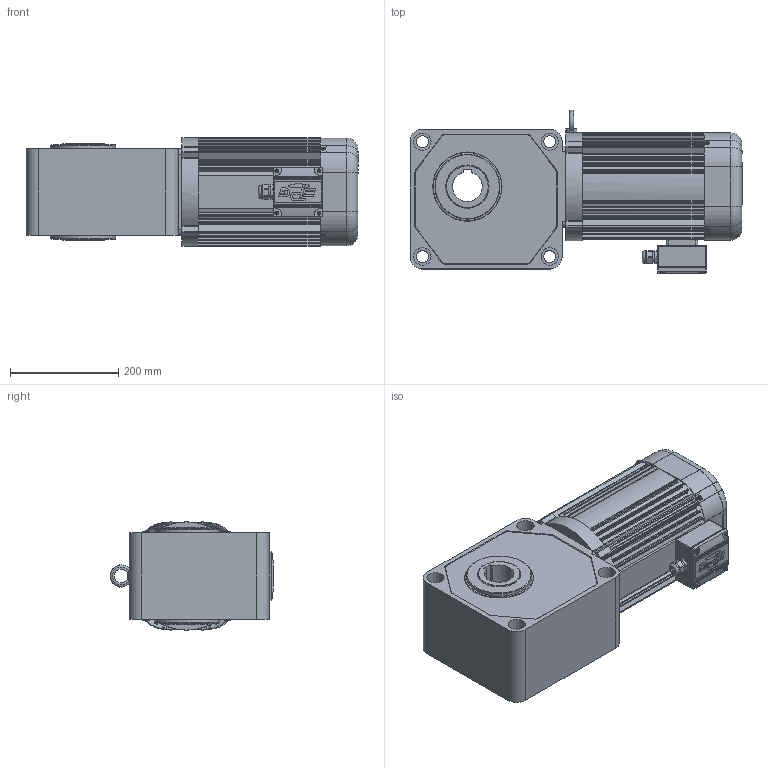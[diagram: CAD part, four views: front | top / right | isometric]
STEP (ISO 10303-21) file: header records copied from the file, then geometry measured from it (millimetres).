
FILE_DESCRIPTION(/* description */ (''),/* implementation_level */ '2;1');
FILE_NAME(/* name */ 'Z:\동력 3D 파일\PCH55_2.2kW_3D.stp',/* time_stamp */ '2021-11-09T10:24:37+09:00',/* author */ ('jaebok'),/* organization */ (''),/* preprocessor_version */ 'ST-DEVELOPER v18.1',/* originating_system */ 'Autodesk Inventor 2022',/* authorisation */ '');
FILE_SCHEMA (('AUTOMOTIVE_DESIGN { 1 0 10303 214 3 1 1 }'));
Length unit declared in the file: millimetre
Products named in the file (1): 부품33
Bounding box: 613 x 302.49 x 200.79 mm (x, y, z)
Volume: 13728361.9 mm3; surface area: 1120268.1 mm2
Topology: 1 solids, 25 shells, 1398 faces, 3729 edges, 2411 vertices
Faces by surface type: plane 700, cylinder 553, torus 60, cone 55, bspline 26, sphere 4
Full cylindrical faces by diameter (mm): 3.25 x1, 3.5 x4, 3.6 x4, 4 x21, 5 x13, 6 x5, 6.647 x4, 7 x8, 8 x1, 8.8 x1, 9 x4, 10 x3, 12.5 x1, 15 x1, 20 x2, 21 x1, 22 x4, 23.6 x1, 25 x2, 31 x1, 32 x4, 36 x1, 50 x1, 62 x1, 120 x2, 176 x1, 180 x2, 181 x1, 185.4 x2, 188 x4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
Entity records: 46926 total; most frequent: CARTESIAN_POINT 10041, DIRECTION 7732, ORIENTED_EDGE 7432, EDGE_CURVE 3716, AXIS2_PLACEMENT_3D 2886, VERTEX_POINT 2411, LINE 1960, VECTOR 1960
